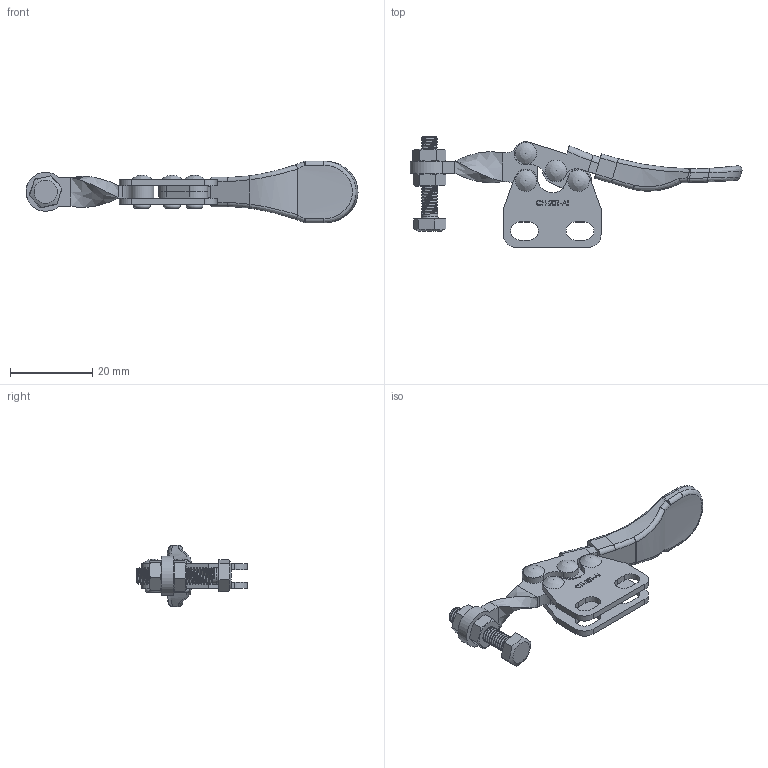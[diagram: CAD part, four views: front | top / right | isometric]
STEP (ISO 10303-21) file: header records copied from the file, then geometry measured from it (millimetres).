
FILE_DESCRIPTION(/* description */ ('STEP AP203'),/* implementation_level */ '2;1');
FILE_NAME(/* name */ 'E:\STRONA\Horizontal toggle clamp\CH-201-AI\CH-201-AI_ZAMKNIETY.stp',/* time_stamp */ '2019-01-10T15:13:30+01:00',/* author */ ('Admin'),/* organization */ ('Î¢ÈíÖÐ¹ú'),/* preprocessor_version */ 'ST-DEVELOPER v17.2',/* originating_system */ 'Autodesk Inventor 2019',/* authorisation */ '');
FILE_SCHEMA (('AUTOMOTIVE_DESIGN { 1 0 10303 214 3 1 1 }'));
Length unit declared in the file: millimetre
Products named in the file (10): CH-201-AI_ZAMKNIETY; CH-201-A-02 SOLID BAR; CH-SA-042007 SPINDLE SUPPLIED; CH-201-A-04; CH-201-03 HANDLE; CH-201-A-03; CH-201-A-05; M4 Nut; CH-201-AI-01 FLANGED BASE; CH-201-A-06
Assembly tree (14 placements, depth 3):
  CH-201-AI_ZAMKNIETY
    CH-201-A-04  x2
    CH-201-A-02 SOLID BAR
    CH-SA-042007 SPINDLE SUPPLIED
    CH-201-A-06  x4
    CH-201-03 HANDLE
      CH-201-A-03
      CH-201-A-05
    M4 Nut  x2
    CH-201-AI-01 FLANGED BASE
Bounding box: 80.89 x 26.93 x 15 mm (x, y, z)
Volume: 4307.5 mm3; surface area: 7625.3 mm2
Topology: 14 solids, 14 shells, 595 faces, 1641 edges, 1099 vertices
Faces by surface type: plane 251, bspline 184, cylinder 121, torus 19, cone 14, sphere 6
Full cylindrical faces by diameter (mm): 0.514 x1, 0.586 x1, 2.4 x4, 3 x18, 3.2 x4, 4 x26, 4.3 x1
Entity records: 40684 total; most frequent: CARTESIAN_POINT 27469, ORIENTED_EDGE 3018, DIRECTION 2069, EDGE_CURVE 1509, VERTEX_POINT 1010, LINE 811, VECTOR 811, AXIS2_PLACEMENT_3D 629
